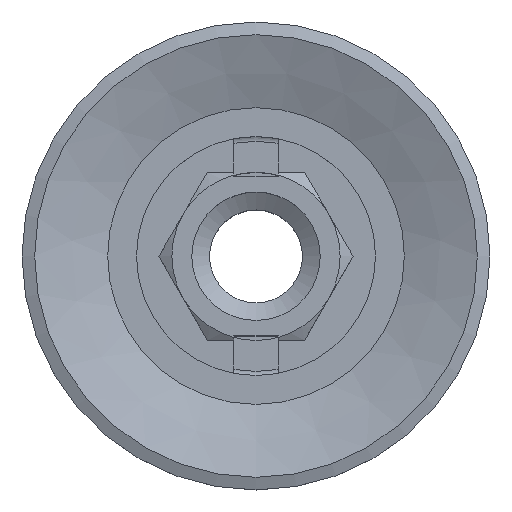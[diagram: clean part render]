
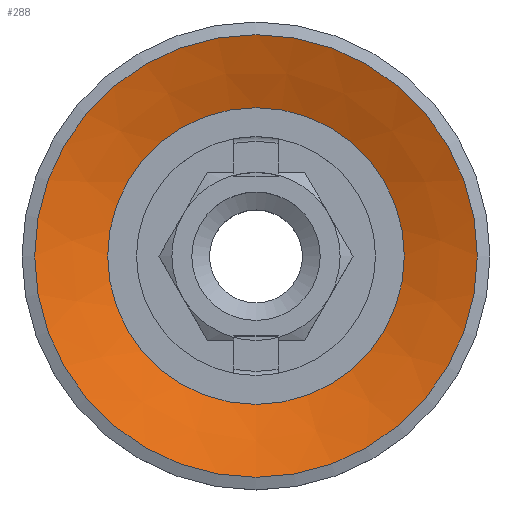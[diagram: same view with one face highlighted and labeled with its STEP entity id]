
A CAD part, top view. The second image highlights one B-rep face of the part: STEP entity #288.
In plain terms, the highlighted conical face has half-angle 70 degrees and reference radius 16.758 mm.
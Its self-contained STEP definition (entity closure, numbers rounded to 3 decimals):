
#288=ADVANCED_FACE('',(#661,#662),#663,.F.);
#322=EDGE_CURVE('',#724,#724,#725,.T.);
#344=EDGE_CURVE('',#757,#757,#758,.T.);
#661=FACE_BOUND('',#1153,.T.);
#662=FACE_OUTER_BOUND('',#1154,.T.);
#663=CONICAL_SURFACE('',#1155,16.758,1.222);
#724=VERTEX_POINT('',#1222);
#725=CIRCLE('',#1223,16.758);
#757=VERTEX_POINT('',#1266);
#758=CIRCLE('',#1267,25.0);
#1153=EDGE_LOOP('',(#1669));
#1154=EDGE_LOOP('',(#1670));
#1155=AXIS2_PLACEMENT_3D('',#1671,#1672,#1673);
#1222=CARTESIAN_POINT('',(0.0,3.0,-16.758));
#1223=AXIS2_PLACEMENT_3D('',#1755,#1756,#1757);
#1266=CARTESIAN_POINT('',(0.0,0.0,-25.0));
#1267=AXIS2_PLACEMENT_3D('',#1788,#1789,#1790);
#1669=ORIENTED_EDGE('',*,*,#322,.F.);
#1670=ORIENTED_EDGE('',*,*,#344,.T.);
#1671=CARTESIAN_POINT('',(0.0,3.0,0.0));
#1672=DIRECTION('',(0.0,-1.0,-0.0));
#1673=DIRECTION('',(0.0,0.0,-1.0));
#1755=CARTESIAN_POINT('',(0.0,3.0,0.0));
#1756=DIRECTION('',(0.0,-1.0,0.0));
#1757=DIRECTION('',(0.0,0.0,-1.0));
#1788=CARTESIAN_POINT('',(0.0,0.0,0.0));
#1789=DIRECTION('',(0.0,-1.0,0.0));
#1790=DIRECTION('',(0.0,0.0,-1.0));
